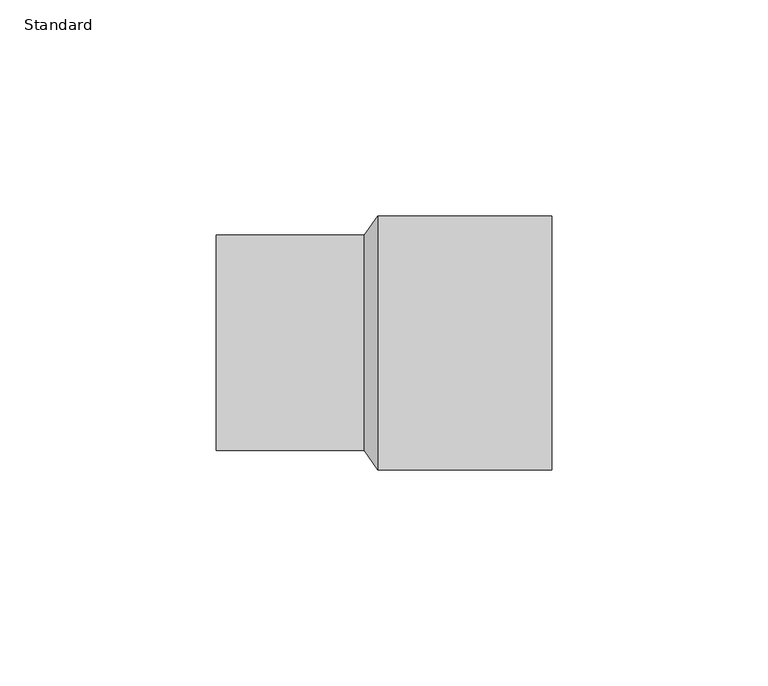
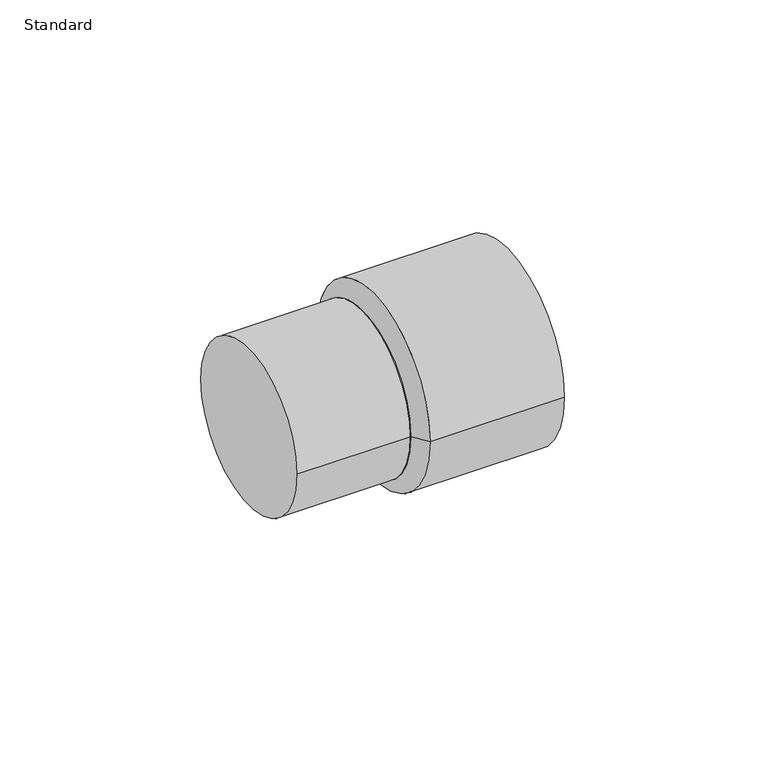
"""IFC4 building model written with IfcOpenShell, lengths in millimetres: pipe fitting geometry, M_Coupling Reducing - CPVC - Sch 40 : Standard."""

import ifcopenshell
import ifcopenshell.guid

model = None  # the IFC model being written
_history = None  # IfcOwnerHistory: only IFC2X3 demands one
_inside = {}  # id of a spatial element -> (the spatial element, [elements in it])
_under = {}  # id of a project, library or spatial element -> (it, [spatial elements below it])
_declared = {}  # id of a project -> (the project, [libraries it declares])
_typed = {}  # id of a type object -> (the type object, [elements of that type])
_made_of = {}  # id of a material, layer set ... -> (it, [elements and type objects made of it])


def new_model(schema):
    """Start an empty IFC model of exactly this schema.

    Asked for "IFC4X3", IfcOpenShell would pick the latest addendum, in which some entities
    have other attributes; the version numbers below select the first issue.
    IFC2X3 requires an IfcOwnerHistory on every rooted entity: one is made here for all.
    """
    global model, _history
    if schema == "IFC4X3":
        model = ifcopenshell.file(schema_version=(4, 3, 0, 0))
    else:
        model = ifcopenshell.file(schema=schema)
    _inside.clear()
    _under.clear()
    _declared.clear()
    _typed.clear()
    _made_of.clear()
    _history = None
    if model.schema == "IFC2X3":
        org = make("IfcOrganization", Name="unknown")
        user = make(
            "IfcPersonAndOrganization",
            ThePerson=make("IfcPerson", FamilyName="unknown"),
            TheOrganization=org,
        )
        app = make(
            "IfcApplication",
            ApplicationDeveloper=org,
            Version="unknown",
            ApplicationFullName="unknown",
            ApplicationIdentifier="unknown",
        )
        _history = make(
            "IfcOwnerHistory",
            OwningUser=user,
            OwningApplication=app,
            ChangeAction="ADDED",
            CreationDate=0,
        )
    return model


def make(cls, **values):
    """One entity of the class cls with the attributes given. An attribute that is None is left unset."""
    return model.create_entity(
        cls, **{name: value for name, value in values.items() if value is not None}
    )


def rooted(cls, **values):
    """An entity with a GlobalId (a new one), such as an element, a storey or a relation."""
    return make(cls, GlobalId=ifcopenshell.guid.new(), OwnerHistory=_history, **values)


def si_unit(unit_type, name, prefix=None):
    """IfcSIUnit, for example si_unit("LENGTHUNIT", "METRE", prefix="MILLI")."""
    return make("IfcSIUnit", UnitType=unit_type, Prefix=prefix, Name=name)


def assignment(units):
    """IfcUnitAssignment: the units of a project."""
    return None if units is None else make("IfcUnitAssignment", Units=units)


def point(xyz):
    """IfcCartesianPoint."""
    return None if xyz is None else make("IfcCartesianPoint", Coordinates=xyz)


def direction(xyz):
    """IfcDirection."""
    return None if xyz is None else make("IfcDirection", DirectionRatios=xyz)


def frame(location, z_axis=None, x_axis=None):
    """IfcAxis2Placement3D, a coordinate frame: its origin and axes. An axis left out is left unset."""
    return make(
        "IfcAxis2Placement3D",
        Location=point(location),
        Axis=direction(z_axis),
        RefDirection=direction(x_axis),
    )


def frame_2d(location, x_axis=None):
    """IfcAxis2Placement2D, a coordinate frame in the plane: its origin and x axis."""
    return make(
        "IfcAxis2Placement2D", Location=point(location), RefDirection=direction(x_axis)
    )


def origin():
    """The frame at (0, 0, 0) with its axes left unset."""
    return frame((0.0, 0.0, 0.0))


def origin_2d():
    """The frame at (0, 0) in the plane with its x axis left unset."""
    return frame_2d((0.0, 0.0))


def place(relative_to, where):
    """IfcLocalPlacement: puts the frame where relative to a parent placement (None: the world)."""
    return make(
        "IfcLocalPlacement", PlacementRelTo=relative_to, RelativePlacement=where
    )


def context(
    kind, dimensions, precision=None, world=None, true_north=None, identifier=None
):
    """IfcGeometricRepresentationContext, for example the 3D "Model" context."""
    return make(
        "IfcGeometricRepresentationContext",
        ContextIdentifier=identifier,
        ContextType=kind,
        CoordinateSpaceDimension=dimensions,
        Precision=precision,
        WorldCoordinateSystem=world,
        TrueNorth=true_north,
    )


def project(units=None, contexts=None):
    """IfcProject with its units and contexts."""
    return rooted(
        "IfcProject",
        Name="project",
        RepresentationContexts=contexts,
        UnitsInContext=assignment(units),
    )


def spatial(cls, under=None, at=None, **own):
    """A site, building, storey or space (cls), placed at a placement, below another one or the project."""
    s = rooted(cls, ObjectPlacement=at, **own)
    if under is not None:
        _under.setdefault(under.id(), (under, []))[1].append(s)
    return s


def polyline(points):
    """IfcPolyline through the points."""
    return make("IfcPolyline", Points=[point(p) for p in points])


def circle_curve(where, radius):
    """IfcCircle in the frame where."""
    return make("IfcCircle", Position=where, Radius=radius)


def trimmed(basis, trim1, trim2, sense, master):
    """IfcTrimmedCurve: the piece of a basis curve between two trims."""
    return make(
        "IfcTrimmedCurve",
        BasisCurve=basis,
        Trim1=trim1,
        Trim2=trim2,
        SenseAgreement=sense,
        MasterRepresentation=master,
    )


def segment(curve, same_sense, transition):
    """IfcCompositeCurveSegment."""
    return make(
        "IfcCompositeCurveSegment",
        Transition=transition,
        SameSense=same_sense,
        ParentCurve=curve,
    )


def composite_curve(segments, self_intersect=None):
    """IfcCompositeCurve: segments joined end to end."""
    return make("IfcCompositeCurve", Segments=segments, SelfIntersect=self_intersect)


def outline(outer, holes=None, kind="AREA"):
    """IfcArbitraryClosedProfileDef: a profile drawn as a closed curve; with holes, ...WithVoids."""
    if holes is None:
        return make("IfcArbitraryClosedProfileDef", ProfileType=kind, OuterCurve=outer)
    return make(
        "IfcArbitraryProfileDefWithVoids",
        ProfileType=kind,
        OuterCurve=outer,
        InnerCurves=holes,
    )


def extrude(swept, where, along, depth):
    """IfcExtrudedAreaSolid: the profile swept, set in the frame where, extruded along a direction by depth."""
    return make(
        "IfcExtrudedAreaSolid",
        SweptArea=swept,
        Position=where,
        ExtrudedDirection=direction(along),
        Depth=depth,
    )


def shape(context_of_items, identifier, shape_type, items):
    """IfcShapeRepresentation: the items that make up one representation, for example the "Body"."""
    return make(
        "IfcShapeRepresentation",
        ContextOfItems=context_of_items,
        RepresentationIdentifier=identifier,
        RepresentationType=shape_type,
        Items=items,
    )


def source(mapping_origin, context_of_items, identifier, shape_type, items):
    """IfcRepresentationMap: a shape defined once, which mapped items show again and again."""
    return make(
        "IfcRepresentationMap",
        MappingOrigin=mapping_origin,
        MappedRepresentation=shape(context_of_items, identifier, shape_type, items),
    )


def transform(
    local_origin,
    x_axis=None,
    y_axis=None,
    z_axis=None,
    scale=None,
    scale2=None,
    scale3=None,
    uniform=True,
):
    """IfcCartesianTransformationOperator3D, or its non-uniform kind. x_axis, y_axis, z_axis: its Axis1, 2, 3."""
    if uniform:
        return make(
            "IfcCartesianTransformationOperator3D",
            Axis1=direction(x_axis),
            Axis2=direction(y_axis),
            LocalOrigin=point(local_origin),
            Scale=scale,
            Axis3=direction(z_axis),
        )
    return make(
        "IfcCartesianTransformationOperator3DnonUniform",
        Axis1=direction(x_axis),
        Axis2=direction(y_axis),
        LocalOrigin=point(local_origin),
        Scale=scale,
        Axis3=direction(z_axis),
        Scale2=scale2,
        Scale3=scale3,
    )


def mapped(mapping_source, mapping_target):
    """IfcMappedItem: shows the shape of a source again, moved by a transform."""
    return make(
        "IfcMappedItem", MappingSource=mapping_source, MappingTarget=mapping_target
    )


def made_of(thing, what):
    """Note that an element or type object is made of a material, layer set ...; save() writes the relation."""
    if what is not None:
        _made_of.setdefault(what.id(), (what, []))[1].append(thing)
    return thing


def element(
    cls,
    number,
    at=None,
    inside=None,
    cuts=None,
    type_object=None,
    material=None,
    context=None,
    identifier="Body",
    shape_type=None,
    held_by="IfcProductDefinitionShape",
    body=None,
    shapes=None,
    **own,
):
    """One element of the class cls, such as IfcWall. Its Tag is "e" and its number.

    at: its placement. inside: the storey or other place that contains it. cuts: it is an
    opening in that element (IfcRelVoidsElement). A single representation is given by context,
    identifier, shape_type and body (its items); several are given by shapes. held_by: the class
    of the entity that holds the representations. save() writes the other relations.
    """
    e = rooted(cls, Tag="e%d" % number, ObjectPlacement=at, **own)
    if body is not None:
        shapes = [shape(context, identifier, shape_type, body)]
    if shapes is not None:
        e.Representation = make(held_by, Representations=shapes)
    if inside is not None:
        _inside.setdefault(inside.id(), (inside, []))[1].append(e)
    if cuts is not None:
        rooted(
            "IfcRelVoidsElement", RelatingBuildingElement=cuts, RelatedOpeningElement=e
        )
    if type_object is not None:
        _typed.setdefault(type_object.id(), (type_object, []))[1].append(e)
    return made_of(e, material)


def aggregate(whole, parts):
    """IfcRelAggregates: a whole, such as a stair, and the parts it consists of."""
    return rooted("IfcRelAggregates", RelatingObject=whole, RelatedObjects=parts)


def save(model, path):
    """Write the relations noted so far, then the file.

    IfcRelAggregates (storeys below a building ...), IfcRelContainedInSpatialStructure (elements
    in a storey), IfcRelDefinesByType, IfcRelAssociatesMaterial and IfcRelDeclares: one each for
    every whole, place, type object, material and project.
    """
    for whole, parts in _under.values():
        aggregate(whole, parts)
    for where, things in _inside.values():
        rooted(
            "IfcRelContainedInSpatialStructure",
            RelatedElements=things,
            RelatingStructure=where,
        )
    for kind, things in _typed.values():
        rooted("IfcRelDefinesByType", RelatedObjects=things, RelatingType=kind)
    for what, things in _made_of.values():
        rooted("IfcRelAssociatesMaterial", RelatedObjects=things, RelatingMaterial=what)
    for by, libraries in _declared.values():
        rooted("IfcRelDeclares", RelatingContext=by, RelatedDefinitions=libraries)
    model.write(path)


def plane_surface(at):
    """IfcPlane: the flat surface through the origin of the frame at, square to its z axis."""
    return make("IfcPlane", Position=at)


def revolved_surface(curve, axis_point, axis_direction):
    """IfcSurfaceOfRevolution: the curve turned about the line through axis_point along axis_direction."""
    return make(
        "IfcSurfaceOfRevolution",
        SweptCurve=make("IfcArbitraryOpenProfileDef", ProfileType="CURVE", Curve=curve),
        AxisPosition=make("IfcAxis1Placement", Location=point(axis_point), Axis=direction(axis_direction)),
    )


def advanced_brep(points, edges, surfaces, faces):
    """IfcAdvancedBrep: a solid bounded by faces that lie on surfaces and meet in shared edges.

    An edge is (start, end): straight between two places in points (the first is 0);
    or (start, end, curve); or (start, end, curve, False) where it runs against its curve.
    A face is (place in surfaces, loops), or (place, loops, False) where it looks against
    its surface's normal. A loop lists edges by number (the first is 1), with a minus sign
    where the edge is run from its end to its start. The first loop is the outer one.
    """
    corners = [point(p) for p in points]
    vertices = [make("IfcVertexPoint", VertexGeometry=c) for c in corners]
    made = []
    for start, end, *more in edges:
        made.append(
            make(
                "IfcEdgeCurve",
                EdgeStart=vertices[start],
                EdgeEnd=vertices[end],
                EdgeGeometry=more[0] if more else make("IfcPolyline", Points=[corners[start], corners[end]]),
                SameSense=more[1] if len(more) > 1 else True,
            )
        )
    hull = []
    for where, loops, *sense in faces:
        bounds = []
        for j, loop in enumerate(loops):
            ring = [make("IfcOrientedEdge", EdgeElement=made[abs(k) - 1], Orientation=k > 0) for k in loop]
            bounds.append(
                make(
                    "IfcFaceOuterBound" if j == 0 else "IfcFaceBound",
                    Bound=make("IfcEdgeLoop", EdgeList=ring),
                    Orientation=True,
                )
            )
        hull.append(make("IfcAdvancedFace", Bounds=bounds, FaceSurface=surfaces[where], SameSense=sense[0] if sense else True))
    return make("IfcAdvancedBrep", Outer=make("IfcClosedShell", CfsFaces=hull))


def standard_b414d414(model_context):
    return source(origin(), model_context, "Body", "SolidModel", [
        advanced_brep(
        [(37.416875, -29.3949219, 0.0), (37.416875, 29.3949219, 0.0), (34.241875, -24.9149219, 0.0), (34.241875, 24.9149219, 0.0)],
        [
            (0, 1, circle_curve(frame((37.416875, 0.0, 0.0), z_axis=(1.0, -4.273914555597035e-12, 0.0), x_axis=(-4.273891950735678e-12, -1.0, 0.0)), 29.3949219)),
            (1, 0, circle_curve(frame((37.416875, 0.0, 0.0), z_axis=(1.0, -4.273914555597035e-12, 0.0), x_axis=(4.273891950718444e-12, 1.0, 0.0)), 29.3949219)),
            (2, 3, circle_curve(frame((34.241875, 0.0, 0.0), z_axis=(-1.0, 4.273914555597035e-12, 0.0), x_axis=(4.273891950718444e-12, 1.0, 0.0)), 24.9149219)),
            (3, 2, circle_curve(frame((34.241875, 0.0, 0.0), z_axis=(-1.0, 4.273914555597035e-12, 0.0), x_axis=(-4.273891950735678e-12, -1.0, 0.0)), 24.9149219)),
            (3, 1),
            (0, 2),
        ],
        [
            plane_surface(frame((37.416875, 0.0, 0.0), z_axis=(1.0, 0.0, 0.0), x_axis=(0.0, 0.0, -1.0))),
            plane_surface(frame((34.241875, 0.0, 0.0), z_axis=(-1.0, 0.0, 0.0), x_axis=(0.0, 0.0, -1.0))),
            revolved_surface(polyline([(34.241875, 24.914921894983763, 0.0), (37.41687500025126, 29.39492190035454, 0.0)]), (16.5845364, 0.0, 0.0), (1.0, -4.273914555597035e-12, 0.0)),
            revolved_surface(polyline([(34.24187499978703, -24.91492189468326, 0.0), (37.416875, -29.3949219, 0.0)]), (16.5845364, 0.0, 0.0), (1.0, -4.273914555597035e-12, 0.0)),
        ],
        [
            (0, [[1, 2]]),
            (1, [[3, 4]]),
            (2, [[-4, 5, -1, 6]]),
            (3, [[-3, -6, -2, -5]]),
        ],
    ),
        extrude(outline(composite_curve([segment(trimmed(circle_curve(origin_2d(), 29.3949219), [point((-29.3949219, 0.0))], [point((29.3949219, 0.0))], False, "CARTESIAN"), True, "CONTINUOUS"), segment(trimmed(circle_curve(origin_2d(), 29.3949219), [point((29.3949219, 0.0))], [point((-29.3949219, 0.0))], False, "CARTESIAN"), True, "CONTINUOUS")], self_intersect=False)), frame((37.416875, 0.0, 0.0), z_axis=(1.0, 0.0, 0.0), x_axis=(0.0, 1.0, 0.0)), (0.0, 0.0, 1.0), 40.321875),
        extrude(outline(composite_curve([segment(trimmed(circle_curve(origin_2d(), 24.9149219), [point((-24.9149219, 0.0))], [point((24.9149219, 0.0))], False, "CARTESIAN"), True, "CONTINUOUS"), segment(trimmed(circle_curve(origin_2d(), 24.9149219), [point((24.9149219, 0.0))], [point((-24.9149219, 0.0))], False, "CARTESIAN"), True, "CONTINUOUS")], self_intersect=False)), frame((0.0, 0.0, 0.0), z_axis=(1.0, 0.0, 0.0), x_axis=(0.0, 1.0, 0.0)), (0.0, 0.0, 1.0), 34.241875),
    ])


if __name__ == "__main__":
    model = new_model("IFC4")
    model_context = context("Model", 3, world=origin())
    ifc_project = project(units=[si_unit("LENGTHUNIT", "METRE", prefix="MILLI")], contexts=[model_context])
    site = spatial("IfcSite", under=ifc_project)
    building = spatial("IfcBuilding", under=site)
    placement = place(None, origin())
    standard_shape = standard_b414d414(model_context)
    element("IfcPipeFitting", 1, ObjectType="M_Coupling Reducing - CPVC - Sch 40 : Standard", at=placement, inside=building, context=model_context, shape_type="MappedRepresentation", body=[
        mapped(standard_shape, transform((0.0, 0.0, 0.0), x_axis=(1.0, 0.0, 0.0), y_axis=(0.0, 1.0, 0.0), z_axis=(0.0, 0.0, 1.0))),
    ])
    save(model, "model.ifc")
